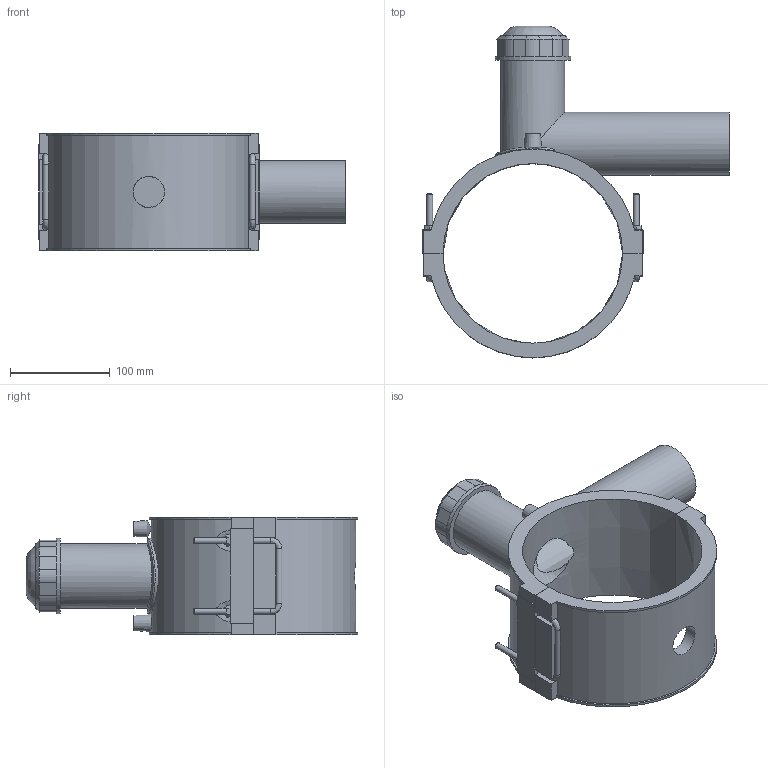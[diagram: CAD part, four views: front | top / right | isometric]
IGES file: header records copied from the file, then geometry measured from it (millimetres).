
Global section: file name: 496304180063.ipt; native system: Autodesk Inventor 2015; preprocessor: unknown; author: KIM; date: 20190124.131125; units: millimetre
Bounding box: 307.5 x 332.65 x 118 mm (x, y, z)
Volume: 1351304.8 mm3; surface area: 287911.7 mm2
Topology: 2 solids, 2 shells, 181 faces, 467 edges, 303 vertices
Faces by surface type: plane 110, cylinder 32, revolution 20, cone 14, bspline 5
Full cylindrical faces by diameter (mm): 4 x2, 6 x10, 63 x1, 64.26 x1, 75.6 x1
